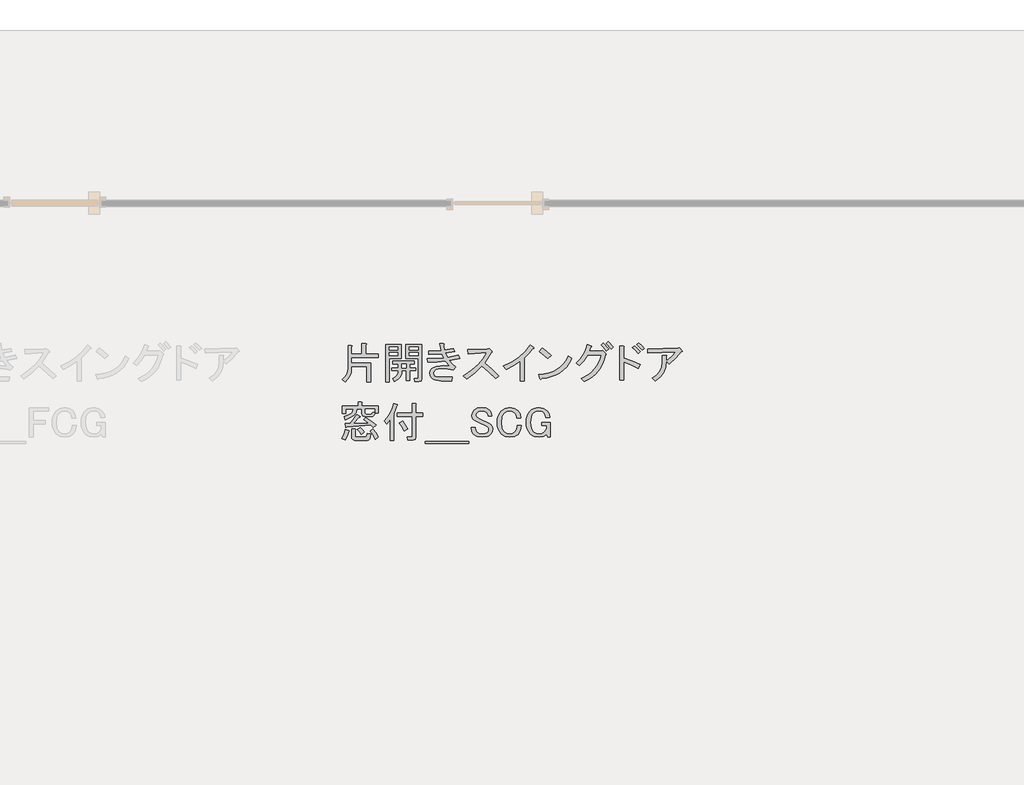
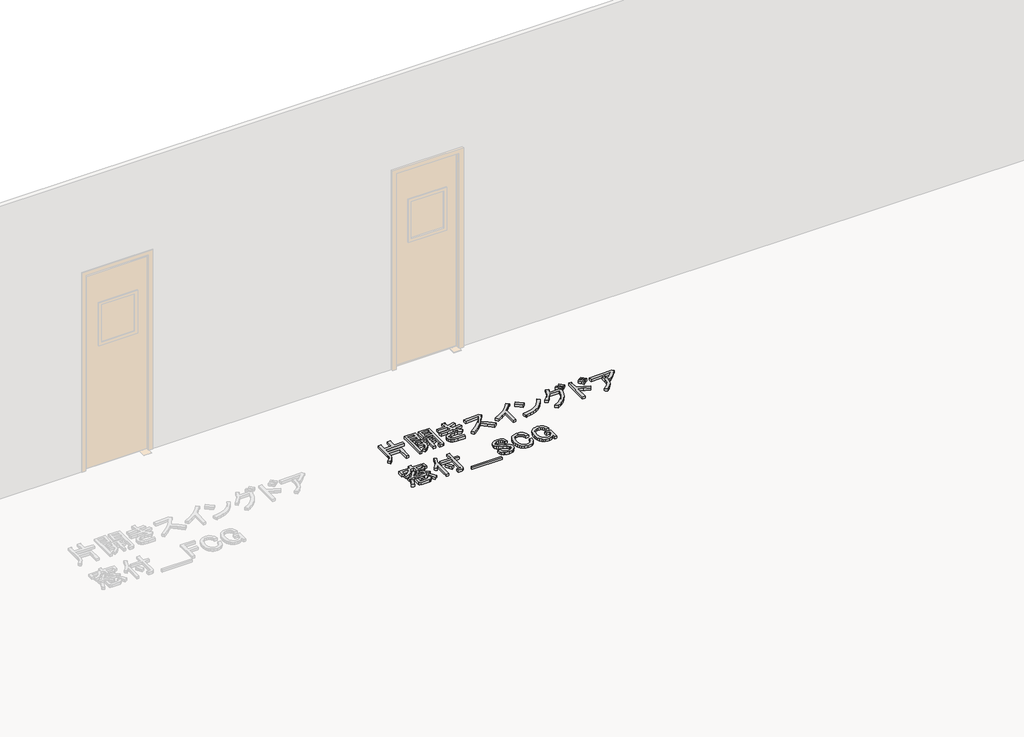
# One storey, part 83 of 117: 1 proxy.
"""IFC4 building model written with IfcOpenShell, lengths in millimetres."""

from ifc_helpers import new_model, si_unit, frame, origin, place, context, project, spatial, polyline, outline, extrude, element, save

model = new_model("IFC4")

# Units and contexts
model_context = context("Model", 3, world=origin())
ifc_project = project(units=[si_unit("LENGTHUNIT", "METRE", prefix="MILLI")], contexts=[model_context])

# Site, building, storey
site = spatial("IfcSite", under=ifc_project)
building = spatial("IfcBuilding", under=site)
storey = spatial("IfcBuildingStorey", under=building, Name="レベル 1", Elevation=500.0)

# Proxy
placement = place(None, origin())
element("IfcBuildingElementProxy", 1, Name="200㎜\u3000MS Pゴシック", ObjectType="200㎜\u3000MS Pゴシック", at=placement, inside=storey, context=model_context, shape_type="SweptSolid", body=[
    extrude(outline(polyline([(-15091.1089695, 31037.0133705), (-15085.0743131, 31033.5649954), (-15089.9595111, 31027.8177037), (-15089.9595111, 30979.5404529), (-15018.6930933, 30979.5404529), (-15018.6930933, 31048.507954), (-14993.4050095, 31048.507954), (-14987.3703532, 31045.059579), (-14992.2555512, 31039.3122872), (-14992.2555512, 30979.5404529), (-14907.1956331, 30979.5404529), (-14907.1956331, 30954.2523692), (-15089.9595111, 30954.2523692), (-15089.9595111, 30917.4697019), (-14960.0707173, 30917.4697019), (-14960.0707173, 30788.7303665), (-14986.5082594, 30788.7303665), (-14986.5082594, 30892.1816181), (-15089.9595111, 30892.1816181), (-15089.9595111, 30880.6870346), (-15092.6894747, 30853.7466045), (-15100.8793655, 30829.2487734), (-15114.5291834, 30807.1935412), (-15133.6389285, 30787.5809081), (-15152.0302621, 30805.9722417), (-15134.9320691, 30821.5617706), (-15122.7190741, 30839.5938985), (-15115.3912772, 30860.0686254), (-15112.9486782, 30882.9859513), (-15112.9486782, 31037.0133705), (-15091.1089695, 31037.0133705)])), frame((0.0, 0.0, 500.0), z_axis=(0.0, 0.0, 1.0), x_axis=(1.0, 0.0, 0.0)), (0.0, 0.0, 1.0), 25.0),
    extrude(outline(polyline([(-14817.5378817, 30865.7440761), (-14817.5378817, 30884.1354097), (-14771.5595476, 30884.1354097), (-14771.5595476, 30911.7224101), (-14809.4916732, 30911.7224101), (-14809.4916732, 30930.1137438), (-14664.6599209, 30930.1137438), (-14664.6599209, 30911.7224101), (-14694.545838, 30911.7224101), (-14694.545838, 30884.1354097), (-14655.464254, 30884.1354097), (-14655.464254, 30865.7440761), (-14694.545838, 30865.7440761), (-14694.545838, 30796.7765749), (-14717.5350051, 30796.7765749), (-14717.5350051, 30865.7440761), (-14748.5703806, 30865.7440761), (-14750.9411384, 30842.1083387), (-14760.3523287, 30821.7772941), (-14776.8039513, 30804.7509422), (-14800.2960064, 30791.0292832), (-14811.7905899, 30812.8689919), (-14794.1895089, 30821.7772941), (-14781.6173082, 30833.5592422), (-14774.0739877, 30848.2148362), (-14771.5595476, 30865.7440761), (-14817.5378817, 30865.7440761)]), holes=[polyline([(-14717.5350051, 30884.1354097), (-14717.5350051, 30911.7224101), (-14748.5703806, 30911.7224101), (-14748.5703806, 30884.1354097), (-14717.5350051, 30884.1354097)])]), frame((0.0, 0.0, 500.0), z_axis=(0.0, 0.0, 1.0), x_axis=(1.0, 0.0, 0.0)), (0.0, 0.0, 1.0), 25.0),
    extrude(outline(polyline([(-14753.168214, 30948.5050774), (-14833.6302986, 30948.5050774), (-14833.6302986, 30787.5809081), (-14856.6194656, 30787.5809081), (-14856.6194656, 31043.9101206), (-14753.168214, 31043.9101206), (-14753.168214, 30948.5050774)]), holes=[polyline([(-14776.157381, 31025.518787), (-14833.6302986, 31025.518787), (-14833.6302986, 31004.8285366), (-14776.157381, 31004.8285366), (-14776.157381, 31025.518787)]), polyline([(-14833.6302986, 30966.896411), (-14776.157381, 30966.896411), (-14776.157381, 30986.437203), (-14833.6302986, 30986.437203), (-14833.6302986, 30966.896411)])]), frame((0.0, 0.0, 500.0), z_axis=(0.0, 0.0, 1.0), x_axis=(1.0, 0.0, 0.0)), (0.0, 0.0, 1.0), 25.0),
    extrude(outline(polyline([(-14722.1328385, 31043.9101206), (-14614.0837534, 31043.9101206), (-14614.0837534, 30809.4206168), (-14618.6815868, 30795.6271166), (-14632.475087, 30791.0292832), (-14660.0620874, 30791.0292832), (-14663.5104625, 30812.8689919), (-14641.6707538, 30812.8689919), (-14638.2223788, 30814.0184502), (-14637.0729204, 30817.4668253), (-14637.0729204, 30948.5050774), (-14679.6028794, 30948.5050774), (-14722.1328385, 30948.5050774), (-14722.1328385, 31043.9101206)]), holes=[polyline([(-14637.0729204, 31004.8285366), (-14637.0729204, 31025.518787), (-14699.1436714, 31025.518787), (-14699.1436714, 31004.8285366), (-14637.0729204, 31004.8285366)]), polyline([(-14699.1436714, 30966.896411), (-14637.0729204, 30966.896411), (-14637.0729204, 30986.437203), (-14699.1436714, 30986.437203), (-14699.1436714, 30966.896411)])]), frame((0.0, 0.0, 500.0), z_axis=(0.0, 0.0, 1.0), x_axis=(1.0, 0.0, 0.0)), (0.0, 0.0, 1.0), 25.0),
    extrude(outline(polyline([(-14453.1595841, 30982.988828), (-14439.3660839, 30954.2523692), (-14366.9502077, 30970.3447861), (-14356.6050825, 30946.2061607), (-14426.722042, 30933.5621188), (-14406.8938854, 30911.147681), (-14381.8931663, 30889.8827014), (-14401.4339582, 30870.3419095), (-14438.5039901, 30877.2386596), (-14466.9530843, 30879.5375763), (-14504.8852099, 30876.0892012), (-14517.8166164, 30871.7787324), (-14526.7249186, 30865.7440761), (-14532.759575, 30857.410503), (-14534.7711271, 30848.5022008), (-14533.0469395, 30838.1570756), (-14527.874377, 30830.1108671), (-14510.3451371, 30823.214117), (-14476.1487511, 30820.9152003), (-14406.0317916, 30820.9152003), (-14410.6296251, 30795.6271166), (-14480.7465845, 30795.6271166), (-14519.8281685, 30800.22495), (-14534.1963979, 30805.9722417), (-14545.1162522, 30814.0184502), (-14555.4613774, 30829.8235025), (-14558.9097525, 30849.6516591), (-14555.748742, 30865.7440761), (-14546.2657106, 30879.5375763), (-14533.9090333, 30888.0866728), (-14516.3797934, 30894.1931703), (-14465.803626, 30899.0783683), (-14424.4231253, 30895.6299932), (-14453.1595841, 30928.9642854), (-14509.7704079, 30923.7917228), (-14571.5537943, 30922.0675353), (-14575.0021694, 30946.2061607), (-14518.103981, 30946.7808899), (-14464.6541676, 30950.8039941), (-14477.2982095, 30979.5404529), (-14565.8065026, 30976.0920778), (-14568.1054193, 30999.0812449), (-14483.0455012, 31001.3801616), (-14492.2411681, 31048.507954), (-14466.9530843, 31048.507954), (-14460.918428, 31045.059579), (-14465.803626, 31039.3122872), (-14460.0563342, 31004.8285366), (-14399.1350415, 31016.3231202), (-14391.0888331, 30993.3339531), (-14453.1595841, 30982.988828)])), frame((0.0, 0.0, 500.0), z_axis=(0.0, 0.0, 1.0), x_axis=(1.0, 0.0, 0.0)), (0.0, 0.0, 1.0), 25.0),
    extrude(outline(polyline([(-14188.7381848, 30917.4697019), (-14139.5988402, 30876.6639304), (-14091.0342249, 30830.1108671), (-14114.0233919, 30810.5700752), (-14161.4385489, 30857.1231384), (-14207.1295184, 30895.6299932), (-14255.1194046, 30849.9390237), (-14309.4313117, 30809.4206168), (-14331.2710204, 30828.9614088), (-14275.8096549, 30868.6177219), (-14231.2681438, 30908.2740351), (-14197.646487, 30947.9303482), (-14174.9446846, 30987.5866614), (-14300.2356449, 30979.5404529), (-14303.68402, 31007.1274534), (-14170.3468511, 31012.8747451), (-14156.5533509, 31016.3231202), (-14138.1620173, 30997.9317865), (-14135.2883714, 30991.322401), (-14142.7598507, 30987.5866614), (-14188.7381848, 30917.4697019)])), frame((0.0, 0.0, 500.0), z_axis=(0.0, 0.0, 1.0), x_axis=(1.0, 0.0, 0.0)), (0.0, 0.0, 1.0), 25.0),
    extrude(outline(polyline([(-14060.6885244, 30896.7794516), (-14004.0058594, 30924.6538166), (-13954.6509914, 30957.7007442), (-13912.6239204, 30995.9202344), (-13877.9246464, 31039.3122872), (-13856.0849377, 31020.9209536), (-13853.4986564, 31014.8862972), (-13864.1311462, 31010.5758284), (-13889.1318653, 30981.552005), (-13920.4546054, 30951.9534525), (-13920.4546054, 30795.6271166), (-13946.8921475, 30795.6271166), (-13946.8921475, 30930.1137438), (-13990.5715649, 30900.5151912), (-14041.1477324, 30873.7902845), (-14060.6885244, 30896.7794516)])), frame((0.0, 0.0, 500.0), z_axis=(0.0, 0.0, 1.0), x_axis=(1.0, 0.0, 0.0)), (0.0, 0.0, 1.0), 25.0),
    extrude(outline(polyline([(-13759.6223928, 30946.2061607), (-13818.2447687, 30993.3339531), (-13798.7039768, 31017.4725785), (-13771.4043409, 30997.6444219), (-13737.7826841, 30968.0458694), (-13759.6223928, 30946.2061607)])), frame((0.0, 0.0, 500.0), z_axis=(0.0, 0.0, 1.0), x_axis=(1.0, 0.0, 0.0)), (0.0, 0.0, 1.0), 25.0),
    extrude(outline(polyline([(-13597.5487652, 30946.2061607), (-13614.072229, 30916.4639258), (-13633.1819741, 30890.4574306), (-13654.8780005, 30868.186675), (-13679.1603081, 30849.6516591), (-13706.0288971, 30834.8523828), (-13735.4837674, 30823.7888462), (-13767.524919, 30816.4610492), (-13802.1523518, 30812.8689919), (-13807.8996436, 30804.8227834), (-13813.6469353, 30810.5700752), (-13822.8426022, 30840.4559923), (-13787.0118301, 30843.132075), (-13754.2343068, 30849.4361357), (-13724.5100322, 30859.3681743), (-13697.8390064, 30872.9281908), (-13674.2212293, 30890.1161852), (-13653.656701, 30910.9321575), (-13636.1454214, 30935.3761078), (-13621.6873905, 30963.448036), (-13597.5487652, 30946.2061607)])), frame((0.0, 0.0, 500.0), z_axis=(0.0, 0.0, 1.0), x_axis=(1.0, 0.0, 0.0)), (0.0, 0.0, 1.0), 25.0),
    extrude(outline(polyline([(-13362.875348, 30997.9317865), (-13380.979317, 31021.2083182), (-13398.5085569, 31038.1628289), (-13383.5655983, 31050.8068707), (-13346.7829311, 31010.5758284), (-13362.875348, 30997.9317865)])), frame((0.0, 0.0, 500.0), z_axis=(0.0, 0.0, 1.0), x_axis=(1.0, 0.0, 0.0)), (0.0, 0.0, 1.0), 25.0),
    extrude(outline(polyline([(-13329.5410558, 31011.7252868), (-13362.875348, 31048.507954), (-13349.0818478, 31062.3014543), (-13315.7475556, 31025.518787), (-13329.5410558, 31011.7252868)])), frame((0.0, 0.0, 500.0), z_axis=(0.0, 0.0, 1.0), x_axis=(1.0, 0.0, 0.0)), (0.0, 0.0, 1.0), 25.0),
    extrude(outline(polyline([(-13369.7720981, 30970.3447861), (-13376.7945702, 30940.1355838), (-13386.9421322, 30912.153457), (-13400.2147842, 30886.3984058), (-13416.612526, 30862.8704302), (-13436.1353577, 30841.5695301), (-13458.7832793, 30822.4957056), (-13484.5562907, 30805.6489566), (-13513.4543921, 30791.0292832), (-13534.1446425, 30812.8689919), (-13483.4247927, 30840.0249454), (-13462.2675749, 30856.7280121), (-13443.9121618, 30875.514472), (-13428.3585535, 30896.3843252), (-13415.6067499, 30919.3375717), (-13405.656751, 30944.3742114), (-13398.5085569, 30971.4942444), (-13490.4652251, 30971.4942444), (-13517.4774964, 30932.1252959), (-13545.639226, 30901.377285), (-13568.628393, 30916.3202435), (-13541.4005983, 30944.4819732), (-13519.4890485, 30974.9426195), (-13502.8937435, 31007.7021825), (-13491.6146834, 31042.7606623), (-13465.1771413, 31033.5649954), (-13462.3034955, 31030.1166204), (-13467.476058, 31026.6682453), (-13480.1200999, 30996.7823282), (-13397.3590986, 30996.7823282), (-13387.0139734, 31002.5296199), (-13366.3237231, 30981.8393696), (-13363.1627126, 30974.9426195), (-13369.7720981, 30970.3447861)])), frame((0.0, 0.0, 500.0), z_axis=(0.0, 0.0, 1.0), x_axis=(1.0, 0.0, 0.0)), (0.0, 0.0, 1.0), 25.0),
    extrude(outline(polyline([(-13148.3404412, 30981.8393696), (-13167.8812332, 31003.6790783), (-13187.4220251, 31020.9209536), (-13172.4790666, 31032.4155371), (-13152.9382746, 31015.1736618), (-13133.3974826, 30993.3339531), (-13148.3404412, 30981.8393696)])), frame((0.0, 0.0, 500.0), z_axis=(0.0, 0.0, 1.0), x_axis=(1.0, 0.0, 0.0)), (0.0, 0.0, 1.0), 25.0),
    extrude(outline(polyline([(-13120.7534407, 31003.6790783), (-13137.7079514, 31022.9325057), (-13158.6855663, 31041.6112039), (-13143.7426078, 31053.1057874), (-13124.4891804, 31036.7260059), (-13105.8104822, 31015.1736618), (-13120.7534407, 31003.6790783)])), frame((0.0, 0.0, 500.0), z_axis=(0.0, 0.0, 1.0), x_axis=(1.0, 0.0, 0.0)), (0.0, 0.0, 1.0), 25.0),
    extrude(outline(polyline([(-13146.0415245, 30880.6870346), (-13201.50289, 30906.5498475), (-13246.0444011, 30922.0675353), (-13246.0444011, 30802.5238667), (-13272.4819432, 30802.5238667), (-13272.4819432, 31032.4155371), (-13249.4927762, 31032.4155371), (-13241.7339323, 31029.5418912), (-13246.0444011, 31023.2198703), (-13246.0444011, 30950.8039941), (-13189.4335773, 30931.8379313), (-13132.2480242, 30907.1245767), (-13146.0415245, 30880.6870346)])), frame((0.0, 0.0, 500.0), z_axis=(0.0, 0.0, 1.0), x_axis=(1.0, 0.0, 0.0)), (0.0, 0.0, 1.0), 25.0),
    extrude(outline(polyline([(-12957.8062247, 30930.1137438), (-12961.6138055, 30888.8769254), (-12975.3354646, 30852.525305), (-12998.971202, 30821.0588826), (-13032.5210176, 30794.4776582), (-13052.0618096, 30816.3173669), (-13022.3914159, 30836.5765704), (-13001.1982775, 30860.5715135), (-12988.4823945, 30888.3021962), (-12984.2437668, 30919.7686186), (-12984.2437668, 30969.1953277), (-12960.1051414, 30969.1953277), (-12954.3578497, 30966.6090464), (-12957.8062247, 30961.1491193), (-12957.8062247, 30931.2632021), (-12921.3109221, 30962.011213), (-12894.5860154, 30992.1844948), (-13081.9477268, 30985.2877447), (-13084.2466435, 31011.7252868), (-12875.0452234, 31017.4725785), (-12866.9990149, 31019.7714952), (-12849.7571396, 30999.0812449), (-12849.4697751, 30995.9202344), (-12855.5044314, 30995.6328698), (-12893.436557, 30952.240817), (-12938.2654328, 30911.7224101), (-12957.8062247, 30930.1137438)])), frame((0.0, 0.0, 500.0), z_axis=(0.0, 0.0, 1.0), x_axis=(1.0, 0.0, 0.0)), (0.0, 0.0, 1.0), 25.0),
    extrude(outline(polyline([(-15066.9703441, 30393.3281999), (-15082.4880318, 30398.2133979), (-15086.3674538, 30404.3198954), (-15087.6605944, 30412.8689919), (-15087.6605944, 30470.3419095), (-15065.8208857, 30470.3419095), (-15060.9356877, 30468.0429928), (-15064.6714274, 30463.4451593), (-15064.6714274, 30423.214117), (-15062.9472398, 30417.1794607), (-15057.7746773, 30415.1679086), (-14996.8533846, 30415.1679086), (-14991.7526632, 30416.7484138), (-14987.9450824, 30421.4899295), (-14984.2093427, 30440.4559923), (-14958.921259, 30434.7087005), (-14961.7949049, 30416.6047315), (-14966.9674674, 30403.673325), (-14974.4389467, 30395.9144812), (-14984.2093427, 30393.3281999), (-15066.9703441, 30393.3281999)])), frame((0.0, 0.0, 500.0), z_axis=(0.0, 0.0, 1.0), x_axis=(1.0, 0.0, 0.0)), (0.0, 0.0, 1.0), 25.0),
    extrude(outline(polyline([(-15122.144345, 30484.1354097), (-15124.1558971, 30479.2502117), (-15127.8916367, 30480.6870346), (-15133.6389285, 30505.9751184), (-15098.0057196, 30505.9751184), (-15054.3263022, 30566.896411), (-15031.3371352, 30553.1029108), (-15032.1992289, 30549.3671712), (-15037.0844269, 30549.6545358), (-15076.1660109, 30505.9751184), (-14977.3125926, 30511.7224101), (-15008.3479681, 30533.5621188), (-14993.4050095, 30546.2061607), (-14961.7949049, 30528.3895562), (-14922.1385917, 30495.6299932), (-14942.8288421, 30479.5375763), (-14958.921259, 30495.6299932), (-15122.144345, 30484.1354097)])), frame((0.0, 0.0, 500.0), z_axis=(0.0, 0.0, 1.0), x_axis=(1.0, 0.0, 0.0)), (0.0, 0.0, 1.0), 25.0),
    extrude(outline(polyline([(-14945.1277588, 30470.3419095), (-14923.5754147, 30443.9043674), (-14907.1956331, 30415.1679086), (-14930.1848002, 30400.22495), (-14945.4151233, 30431.2603255), (-14963.5190924, 30457.6978676), (-14945.1277588, 30470.3419095)])), frame((0.0, 0.0, 500.0), z_axis=(0.0, 0.0, 1.0), x_axis=(1.0, 0.0, 0.0)), (0.0, 0.0, 1.0), 25.0),
    extrude(outline(polyline([(-15024.440385, 30433.5592422), (-15034.210781, 30449.6516591), (-15049.7284688, 30468.0429928), (-15030.1876768, 30480.6870346), (-15015.8194474, 30466.8935344), (-15002.6006764, 30448.5022008), (-15024.440385, 30433.5592422)])), frame((0.0, 0.0, 500.0), z_axis=(0.0, 0.0, 1.0), x_axis=(1.0, 0.0, 0.0)), (0.0, 0.0, 1.0), 25.0),
    extrude(outline(polyline([(-15155.4786372, 30405.9722417), (-15140.248314, 30437.869711), (-15131.3400118, 30466.8935344), (-15108.3508447, 30458.8473259), (-15106.3392926, 30455.3989509), (-15109.5003031, 30451.9505758), (-15119.2706991, 30421.4899295), (-15132.4894701, 30394.4776582), (-15155.4786372, 30405.9722417)])), frame((0.0, 0.0, 500.0), z_axis=(0.0, 0.0, 1.0), x_axis=(1.0, 0.0, 0.0)), (0.0, 0.0, 1.0), 25.0),
    extrude(outline(polyline([(-14909.4945498, 30624.3693286), (-14909.4945498, 30579.5404529), (-14929.0353418, 30579.5404529), (-14937.9436441, 30560.5743901), (-14944.768553, 30555.8328744), (-14953.1739672, 30554.2523692), (-15001.451218, 30554.2523692), (-15014.3826245, 30558.8502026), (-15018.6930933, 30572.6437028), (-15018.6930933, 30605.977995), (-15053.1768438, 30605.977995), (-15058.5649299, 30582.8451457), (-15073.5797296, 30562.8733068), (-15098.221243, 30546.0624784), (-15132.4894701, 30532.4126605), (-15139.3862203, 30554.2523692), (-15111.7273787, 30563.950924), (-15091.9710632, 30575.8047133), (-15080.117274, 30589.8137369), (-15076.1660109, 30605.977995), (-15130.1905534, 30605.977995), (-15130.1905534, 30573.7931611), (-15153.1797205, 30573.7931611), (-15153.1797205, 30624.3693286), (-15043.981177, 30624.3693286), (-15043.981177, 30651.9563291), (-15022.1414683, 30651.9563291), (-15017.2562703, 30649.6574124), (-15020.99201, 30645.059579), (-15020.99201, 30624.3693286), (-14909.4945498, 30624.3693286)]), holes=[polyline([(-14960.0707173, 30572.6437028), (-14953.4613318, 30576.0920778), (-14949.7255922, 30586.437203), (-14932.4837169, 30581.8393696), (-14932.4837169, 30605.977995), (-14995.7039262, 30605.977995), (-14995.7039262, 30579.5404529), (-14993.9797387, 30574.3678903), (-14988.8071761, 30572.6437028), (-14960.0707173, 30572.6437028)])]), frame((0.0, 0.0, 500.0), z_axis=(0.0, 0.0, 1.0), x_axis=(1.0, 0.0, 0.0)), (0.0, 0.0, 1.0), 25.0),
    extrude(outline(polyline([(-14677.3039627, 30577.2415362), (-14677.3039627, 30642.7606623), (-14655.464254, 30642.7606623), (-14650.579056, 30640.4617456), (-14654.3147957, 30635.8639122), (-14654.3147957, 30577.2415362), (-14607.1870033, 30577.2415362), (-14607.1870033, 30555.4018275), (-14654.3147957, 30555.4018275), (-14654.3147957, 30412.8689919), (-14658.9126291, 30399.0754916), (-14672.7061293, 30394.4776582), (-14707.1898799, 30394.4776582), (-14712.9371716, 30416.3173669), (-14681.9017961, 30416.3173669), (-14678.4534211, 30417.4668253), (-14677.3039627, 30420.9152003), (-14677.3039627, 30555.4018275), (-14780.7552144, 30555.4018275), (-14780.7552144, 30577.2415362), (-14677.3039627, 30577.2415362)])), frame((0.0, 0.0, 500.0), z_axis=(0.0, 0.0, 1.0), x_axis=(1.0, 0.0, 0.0)), (0.0, 0.0, 1.0), 25.0),
    extrude(outline(polyline([(-14743.9725471, 30525.5159104), (-14708.3393382, 30471.4913678), (-14731.3285053, 30456.5484092), (-14747.9956514, 30487.0090556), (-14765.8122558, 30511.7224101), (-14743.9725471, 30525.5159104)])), frame((0.0, 0.0, 500.0), z_axis=(0.0, 0.0, 1.0), x_axis=(1.0, 0.0, 0.0)), (0.0, 0.0, 1.0), 25.0),
    extrude(outline(polyline([(-14784.2035895, 30627.8177037), (-14792.8245271, 30599.0812449), (-14804.8938398, 30570.3447861), (-14798.5718189, 30566.896411), (-14802.5949231, 30561.1491193), (-14802.5949231, 30391.0292832), (-14825.5840901, 30391.0292832), (-14825.5840901, 30533.5621188), (-14850.8721739, 30502.5267433), (-14869.2635075, 30523.2169937), (-14846.7053874, 30548.4332363), (-14828.457736, 30576.9541716), (-14814.5205535, 30608.7797997), (-14804.8938398, 30643.9101206), (-14780.7552144, 30634.7144538), (-14779.3183915, 30630.6913496), (-14784.2035895, 30627.8177037)])), frame((0.0, 0.0, 500.0), z_axis=(0.0, 0.0, 1.0), x_axis=(1.0, 0.0, 0.0)), (0.0, 0.0, 1.0), 25.0),
    extrude(outline(polyline([(-14589.945128, 30385.2819914), (-14296.8332482, 30385.2819914), (-14296.8332482, 30372.6379495), (-14589.945128, 30372.6379495), (-14589.945128, 30385.2819914)])), frame((0.0, 0.0, 500.0), z_axis=(0.0, 0.0, 1.0), x_axis=(1.0, 0.0, 0.0)), (0.0, 0.0, 1.0), 25.0),
    extrude(outline(polyline([(-14273.8440812, 30561.1491193), (-14269.8209769, 30581.552005), (-14257.7516642, 30599.0812449), (-14237.3487785, 30611.1505576), (-14208.3249551, 30615.1736618), (-14177.002215, 30610.5758284), (-14154.3004126, 30596.7823282), (-14142.2310999, 30579.2530883), (-14138.2079956, 30558.8502026), (-14164.6455377, 30558.8502026), (-14166.9444544, 30571.4942444), (-14173.8412045, 30581.8393696), (-14187.0599756, 30589.5982135), (-14206.0260384, 30592.1844948), (-14226.4289241, 30589.8855781), (-14239.3603306, 30582.988828), (-14245.3949869, 30574.3678903), (-14247.4065391, 30564.5974943), (-14242.8087057, 30549.6545358), (-14222.1184553, 30538.1599522), (-14162.346621, 30511.7224101), (-14145.1047457, 30500.2278266), (-14135.6217143, 30486.4343264), (-14132.4607039, 30470.3419095), (-14136.4838081, 30449.0769299), (-14148.5531208, 30431.2603255), (-14158.5390402, 30423.7170051), (-14171.2549232, 30418.328919), (-14204.87658, 30414.0184502), (-14238.4982368, 30419.1910128), (-14252.0762136, 30425.656716), (-14263.498956, 30434.7087005), (-14274.7061749, 30453.1000342), (-14278.4419146, 30478.3881179), (-14252.0043725, 30478.3881179), (-14249.7054558, 30460.5715135), (-14242.8087057, 30448.5022008), (-14226.7162887, 30439.0191694), (-14203.7271217, 30435.8581589), (-14182.7495068, 30438.7318048), (-14168.0939128, 30447.3527424), (-14161.1971627, 30456.5484092), (-14158.898246, 30465.7440761), (-14160.6224335, 30475.2271075), (-14165.7949961, 30482.9859513), (-14184.1863297, 30494.4805349), (-14214.0722469, 30508.2740351), (-14247.4065391, 30523.2169937), (-14263.498956, 30533.5621188), (-14271.2577999, 30545.6314315), (-14273.8440812, 30561.1491193)])), frame((0.0, 0.0, 500.0), z_axis=(0.0, 0.0, 1.0), x_axis=(1.0, 0.0, 0.0)), (0.0, 0.0, 1.0), 25.0),
    extrude(outline(polyline([(-14103.03457, 30514.0213268), (-14101.2385414, 30537.9444288), (-14095.8504553, 30559.1375672), (-14086.870312, 30577.6007419), (-14074.2981112, 30593.3339531), (-14049.2973921, 30609.7137346), (-14017.974652, 30615.1736618), (-13987.2266411, 30610.2884638), (-13963.9501095, 30595.6328698), (-13948.1450571, 30572.0689736), (-13942.1104008, 30542.7577856), (-13969.6974012, 30542.7577856), (-13974.5825992, 30564.0227652), (-13984.6403598, 30579.5404529), (-13999.870683, 30589.8855781), (-14017.974652, 30593.3339531), (-14037.515444, 30589.3108489), (-14054.7573193, 30577.2415362), (-14063.8093038, 30565.5314292), (-14070.275007, 30551.0913587), (-14075.4475696, 30514.0213268), (-14070.275007, 30476.951295), (-14063.8093038, 30462.5112244), (-14054.7573193, 30450.8011175), (-14038.0901732, 30439.5938985), (-14017.974652, 30435.8581589), (-13997.5717662, 30439.0191694), (-13982.3414431, 30448.5022008), (-13970.2721304, 30468.0429928), (-13966.2490262, 30494.4805349), (-13938.6620257, 30494.4805349), (-13944.9840466, 30459.7094197), (-13952.024479, 30445.5567137), (-13961.6511927, 30433.5592422), (-13972.4992059, 30425.0101457), (-13985.5024536, 30418.9036482), (-14017.974652, 30414.0184502), (-14049.2973921, 30419.4783774), (-14074.2981112, 30435.8581589), (-14086.870312, 30451.5195289), (-14095.8504553, 30469.7671803), (-14101.2385414, 30490.6011129), (-14103.03457, 30514.0213268)])), frame((0.0, 0.0, 500.0), z_axis=(0.0, 0.0, 1.0), x_axis=(1.0, 0.0, 0.0)), (0.0, 0.0, 1.0), 25.0),
    extrude(outline(polyline([(-13906.5231702, 30514.0213268), (-13904.8708238, 30537.8007465), (-13899.9137847, 30558.562838), (-13891.6520528, 30576.3076013), (-13880.0856281, 30591.0350364), (-13867.3697451, 30601.595685), (-13853.3607214, 30609.1390055), (-13838.0585571, 30613.6649977), (-13821.4632521, 30615.1736618), (-13790.140512, 30609.7137346), (-13765.1397929, 30593.3339531), (-13751.0589281, 30572.9310674), (-13745.5990009, 30548.5050774), (-13773.1860013, 30548.5050774), (-13777.2091056, 30566.3216819), (-13786.9795016, 30580.6899113), (-13801.9224601, 30590.1729427), (-13821.4632521, 30593.3339531), (-13841.5787733, 30589.5982135), (-13858.2459194, 30578.3909946), (-13867.2979039, 30566.6090464), (-13873.7636072, 30551.9534525), (-13878.9361697, 30514.0213268), (-13873.4762426, 30477.5260242), (-13866.6513336, 30462.9422713), (-13857.096461, 30450.8011175), (-13839.2798566, 30439.5938985), (-13815.7159604, 30435.8581589), (-13797.8993559, 30439.0191694), (-13783.5311265, 30448.5022008), (-13773.4733659, 30461.4336072), (-13768.5881679, 30474.9397429), (-13768.5881679, 30493.3310765), (-13801.9224601, 30493.3310765), (-13801.9224601, 30515.1707852), (-13742.1506258, 30515.1707852), (-13742.1506258, 30414.0184502), (-13761.6914178, 30414.0184502), (-13768.5881679, 30433.5592422), (-13790.7152412, 30418.9036482), (-13818.0148771, 30414.0184502), (-13851.3491693, 30419.765742), (-13865.4300341, 30426.9498567), (-13877.7867114, 30437.0076172), (-13890.3589121, 30452.5971461), (-13899.3390555, 30470.629274), (-13904.7271415, 30491.1040009), (-13906.5231702, 30514.0213268)])), frame((0.0, 0.0, 500.0), z_axis=(0.0, 0.0, 1.0), x_axis=(1.0, 0.0, 0.0)), (0.0, 0.0, 1.0), 25.0),
])

save(model, "model.ifc")
